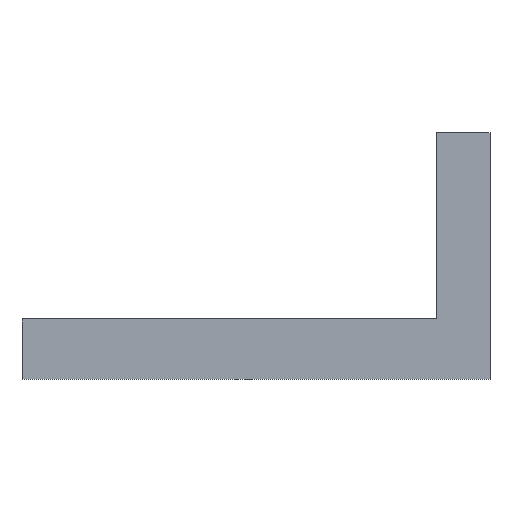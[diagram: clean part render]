
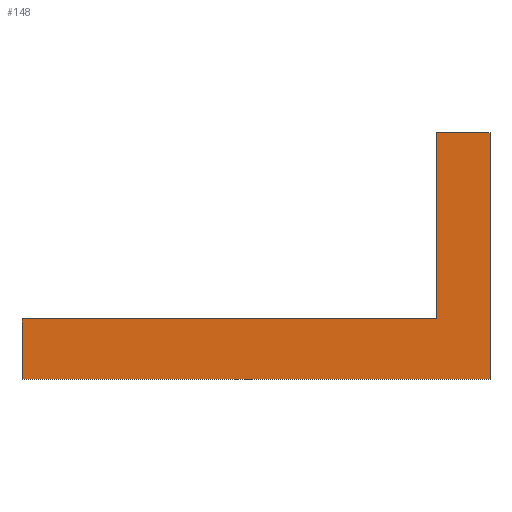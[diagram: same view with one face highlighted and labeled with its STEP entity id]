
A CAD part, top view. The second image highlights one B-rep face of the part: STEP entity #148.
In plain terms, the highlighted planar face has unit normal (0, 0, 1).
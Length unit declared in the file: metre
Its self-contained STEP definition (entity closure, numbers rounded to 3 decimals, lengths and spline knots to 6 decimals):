
#18=ORIENTED_EDGE('',*,*,#54,.T.);
#19=ORIENTED_EDGE('',*,*,#55,.T.);
#20=ORIENTED_EDGE('',*,*,#56,.T.);
#21=ORIENTED_EDGE('',*,*,#57,.T.);
#22=ORIENTED_EDGE('',*,*,#58,.T.);
#23=ORIENTED_EDGE('',*,*,#59,.T.);
#54=EDGE_CURVE('',#72,#73,#84,.T.);
#55=EDGE_CURVE('',#73,#74,#85,.T.);
#56=EDGE_CURVE('',#74,#75,#86,.T.);
#57=EDGE_CURVE('',#75,#76,#87,.T.);
#58=EDGE_CURVE('',#76,#77,#88,.T.);
#59=EDGE_CURVE('',#77,#72,#89,.T.);
#72=VERTEX_POINT('',#276);
#73=VERTEX_POINT('',#277);
#74=VERTEX_POINT('',#279);
#75=VERTEX_POINT('',#281);
#76=VERTEX_POINT('',#283);
#77=VERTEX_POINT('',#285);
#84=LINE('',#275,#102);
#85=LINE('',#278,#103);
#86=LINE('',#280,#104);
#87=LINE('',#282,#105);
#88=LINE('',#284,#106);
#89=LINE('',#286,#107);
#102=VECTOR('',#236,1.);
#103=VECTOR('',#237,1.);
#104=VECTOR('',#238,1.);
#105=VECTOR('',#239,1.);
#106=VECTOR('',#240,1.);
#107=VECTOR('',#241,1.);
#115=EDGE_LOOP('',(#18,#19,#20,#21,#22,#23));
#123=FACE_BOUND('',#115,.T.);
#131=PLANE('',#217);
#148=ADVANCED_FACE('',(#123),#131,.F.);
#217=AXIS2_PLACEMENT_3D('',#274,#234,#235);
#234=DIRECTION('',(0.,0.,-1.));
#235=DIRECTION('',(1.,0.,0.));
#236=DIRECTION('',(-1.,0.,0.));
#237=DIRECTION('',(0.,-1.,0.));
#238=DIRECTION('',(-1.,0.,0.));
#239=DIRECTION('',(0.,-1.,0.));
#240=DIRECTION('',(1.,0.,0.));
#241=DIRECTION('',(0.,1.,0.));
#274=CARTESIAN_POINT('',(-0.0704,-0.024012,0.010548));
#275=CARTESIAN_POINT('',(-0.070781,-0.023106,0.010548));
#276=CARTESIAN_POINT('',(-0.070774,-0.023106,0.010548));
#277=CARTESIAN_POINT('',(-0.070781,-0.023106,0.010548));
#278=CARTESIAN_POINT('',(-0.070781,-0.02313,0.010548));
#279=CARTESIAN_POINT('',(-0.070781,-0.02313,0.010548));
#280=CARTESIAN_POINT('',(-0.070835,-0.02313,0.010548));
#281=CARTESIAN_POINT('',(-0.070835,-0.02313,0.010548));
#282=CARTESIAN_POINT('',(-0.070835,-0.023138,0.010548));
#283=CARTESIAN_POINT('',(-0.070835,-0.023138,0.010548));
#284=CARTESIAN_POINT('',(-0.070774,-0.023138,0.010548));
#285=CARTESIAN_POINT('',(-0.070774,-0.023138,0.010548));
#286=CARTESIAN_POINT('',(-0.070774,-0.023106,0.010548));
